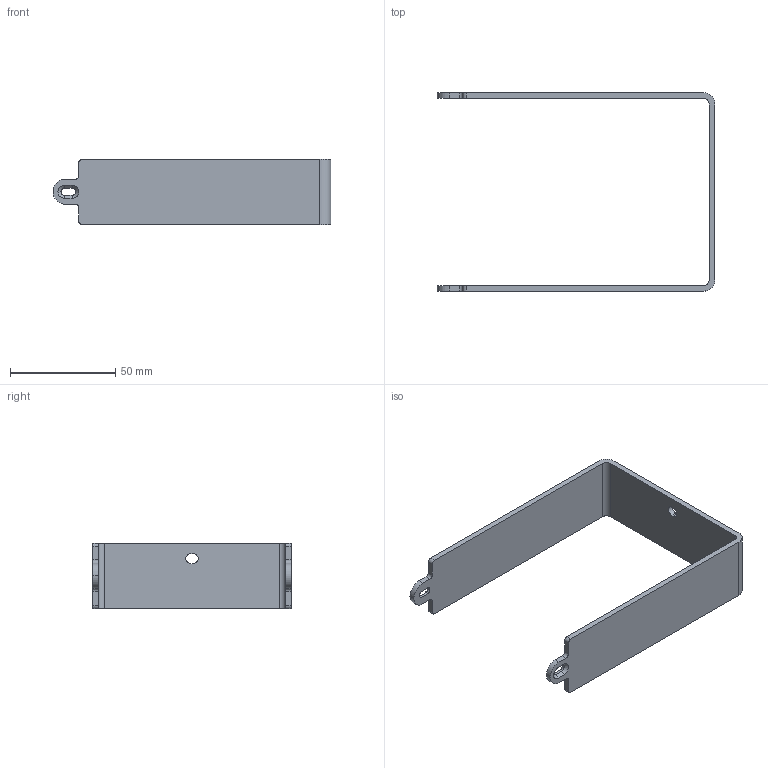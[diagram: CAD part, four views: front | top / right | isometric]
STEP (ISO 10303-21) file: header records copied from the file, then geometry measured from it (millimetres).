
FILE_DESCRIPTION((''),'2;1');
FILE_NAME('PRT0002','2015-07-08T',('jbuhisan'),(''),'PRO/ENGINEER BY PARAMETRIC TECHNOLOGY CORPORATION, 2014000','PRO/ENGINEER BY PARAMETRIC TECHNOLOGY CORPORATION, 2014000','');
FILE_SCHEMA(('CONFIG_CONTROL_DESIGN'));
Length unit declared in the file: inch
Products named in the file (1): PRT0002
Bounding box: 131.92 x 94.19 x 31 mm (x, y, z)
Volume: 27333.1 mm3; surface area: 22633.4 mm2
Topology: 1 solids, 1 shells, 51 faces, 139 edges, 90 vertices
Faces by surface type: plane 26, cylinder 21, cone 4
Entity records: 1667 total; most frequent: DIRECTION 287, CARTESIAN_POINT 280, ORIENTED_EDGE 278, EDGE_CURVE 139, AXIS2_PLACEMENT_3D 97, VECTOR 93, LINE 93, VERTEX_POINT 90
